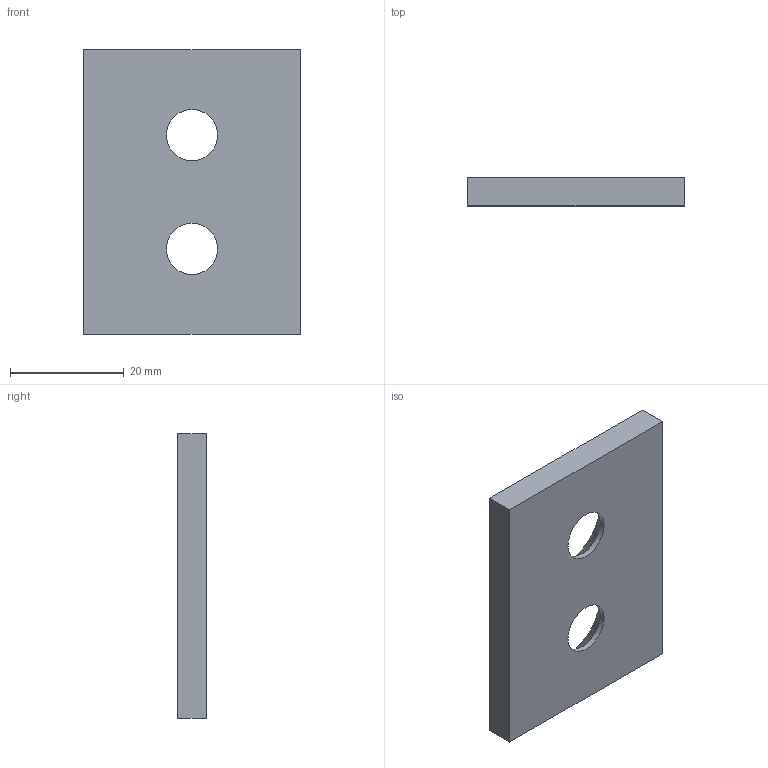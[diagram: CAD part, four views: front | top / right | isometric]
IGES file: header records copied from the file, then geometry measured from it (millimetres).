
Start section: Data from Parasolid IGES Translator 20.0.26, Copyright(c) 2006 Siemens P LM Software. All Rights Reserved.
Global section: file name: P605-01-038-050.igs; native system: By Siemens PLM Incorporated; preprocessor: XPlus GENERIC/IGES 20.0.26; author: Noname; organization: Noname; date: 20190705.145742; units: millimetre
Bounding box: 38 x 5 x 50 mm (x, y, z)
Surface area: 4617.4 mm2 (no closed solid volume)
Topology: 0 solids, 0 shells, 10 faces, 44 edges, 42 vertices
Faces by surface type: extrusion 6, revolution 4
